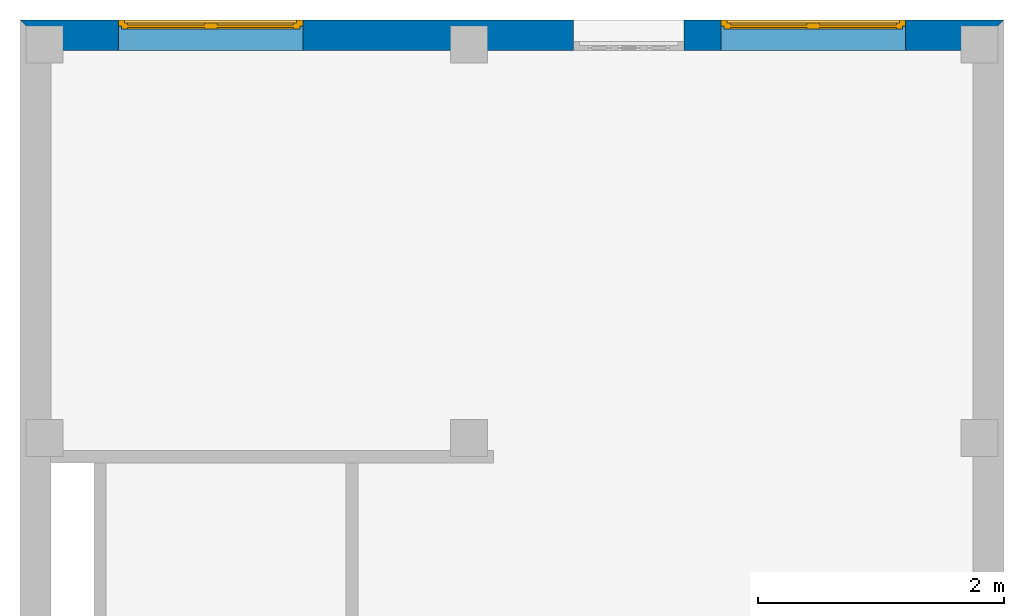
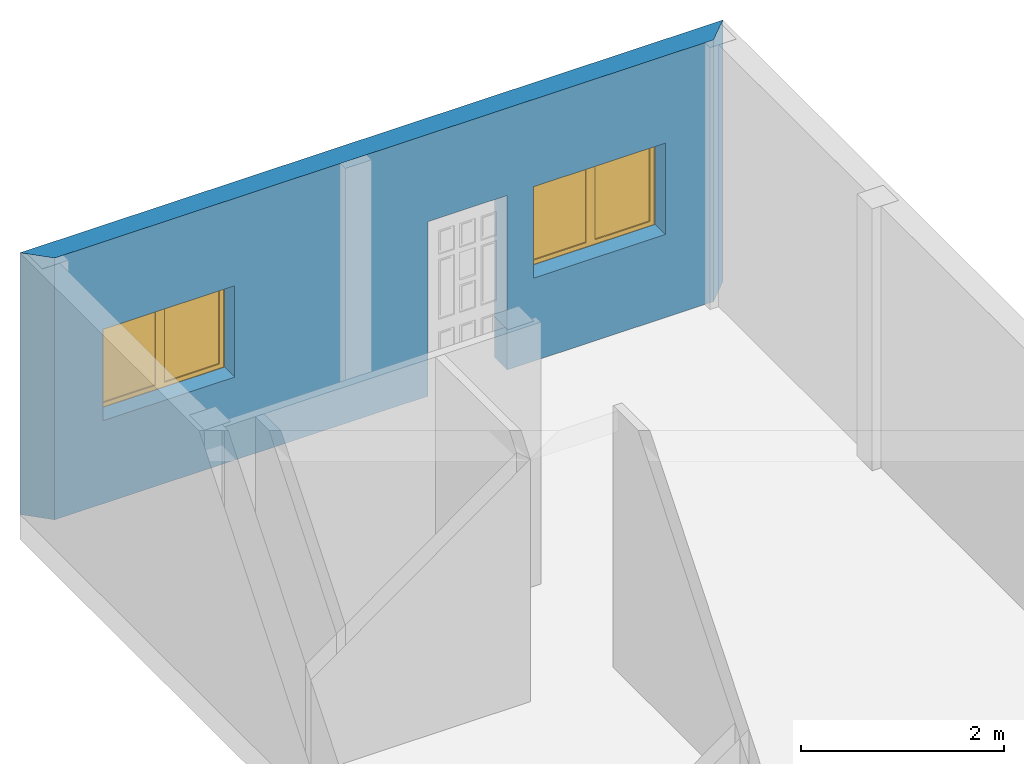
# One storey, part 2 of 5: 2 windows, 1 wall, 3 openings.
"""IFC2X3 building model written with IfcOpenShell, lengths in millimetres."""

from ifc_helpers import new_model, entity, si_unit, converted_unit, direction, frame, frame_2d, origin_with_axes, place, context, project, spatial, polyline, rectangle, outline, extrude, faceted_brep, source, transform, mapped, material, layer, layer_set, layer_usage, type_object, element, fill, save


model = new_model("IFC2X3")

# Units and contexts
context_of_model = context(None, 3, precision=1e-05, world=origin_with_axes(), true_north=direction((6.123234e-17, 1.0)))
plan_context = context("Plan", 3, precision=1e-05, world=origin_with_axes(), true_north=direction((6.123234e-17, 1.0)))
model_context = context("Model", 3, precision=1e-05, world=origin_with_axes(), true_north=direction((6.123234e-17, 1.0)))
ifc_project = project(units=[si_unit("LENGTHUNIT", "METRE", prefix="MILLI"), si_unit("AREAUNIT", "SQUARE_METRE"), si_unit("VOLUMEUNIT", "CUBIC_METRE"), converted_unit("PLANEANGLEUNIT", "DEGREE", entity("IfcPlaneAngleMeasure", 0.017453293), si_unit("PLANEANGLEUNIT", "RADIAN"), dimensions=[0, 0, 0, 0, 0, 0, 0]), si_unit("SOLIDANGLEUNIT", "STERADIAN"), si_unit("MASSUNIT", "GRAM"), si_unit("TIMEUNIT", "SECOND"), si_unit("THERMODYNAMICTEMPERATUREUNIT", "DEGREE_CELSIUS"), si_unit("LUMINOUSINTENSITYUNIT", "LUMEN")], contexts=[context_of_model, plan_context, model_context])

# Site, building, storey
site_placement = place(None, origin_with_axes())
site = spatial("IfcSite", under=ifc_project, at=site_placement, Name="Por defecto Sitio", CompositionType="ELEMENT")
building_placement = place(site_placement, origin_with_axes())
building = spatial("IfcBuilding", under=site, at=building_placement, Name="Por defecto Edificio", CompositionType="ELEMENT")
storey_placement = place(building_placement, origin_with_axes())
storey = spatial("IfcBuildingStorey", under=building, at=storey_placement, Name="Planta Baja", CompositionType="ELEMENT", Elevation=0.0)

# Wall, openings, windows
ifc_material = material(Name="Bloque mampostería")
ifc_layer = layer(ifc_material, 250.0, ventilated="UNKNOWN")
ifc_layer_set = layer_set([ifc_layer], Name="Bloque mampostería 250")
ifc_layer_usage = layer_usage(ifc_layer_set, "AXIS2", "NEGATIVE", 0.0)
wall_type = type_object("IfcWallType", Name="Bloque mampostería 250", PredefinedType="NOTDEFINED", material=ifc_layer_set)
wall_placement = place(storey_placement, frame((-200.0, 12750.0, 0.0), z_axis=(0.0, 0.0, 1.0), x_axis=(1.0, 0.0, 0.0)))
wall = element("IfcWallStandardCase", 1, at=wall_placement, inside=storey, type_object=wall_type, material=ifc_layer_usage, Name="Muro-005", context=model_context, shape_type="SweptSolid", body=[
    extrude(outline(polyline([(250.0, -250.0), (7750.0, -250.0), (8000.0, 0.0), (0.0, 0.0), (250.0, -250.0)])), origin_with_axes(), (0.0, 0.0, 1.0), 3150.0),
])
opening_1_placement = place(wall_placement, frame((4950.0, -250.0, 0.0), z_axis=(0.0, 0.0, 1.0), x_axis=(1.0, 0.0, 0.0)))
element("IfcOpeningElement", 2, at=opening_1_placement, cuts=wall, ObjectType="Opening", context=model_context, shape_type="SweptSolid", body=[
    extrude(rectangle(XDim=900.0, YDim=2100.0, at=frame_2d((0.0, 1050.0), x_axis=(-1.0, 0.0))), frame((0.0, 0.0, 0.0), z_axis=(0.0, 1.0, 0.0), x_axis=(-1.0, 0.0, 0.0)), (0.0, 0.0, 1.0), 250.0),
])
opening_2_placement = place(wall_placement, frame((6450.0, -250.0, 1000.0), z_axis=(0.0, 0.0, 1.0), x_axis=(1.0, 0.0, 0.0)))
opening_2 = element("IfcOpeningElement", 3, at=opening_2_placement, cuts=wall, ObjectType="Opening", context=model_context, shape_type="SweptSolid", body=[
    extrude(rectangle(XDim=1500.0, YDim=1100.0, at=frame_2d((0.0, 550.0), x_axis=(-1.0, 0.0))), frame((0.0, 0.0, 0.0), z_axis=(0.0, 1.0, 0.0), x_axis=(-1.0, 0.0, 0.0)), (0.0, 0.0, 1.0), 250.0),
])
opening_3_placement = place(wall_placement, frame((1549.7728, -250.0, 1000.0), z_axis=(0.0, 0.0, 1.0), x_axis=(1.0, 0.0, 0.0)))
opening_3 = element("IfcOpeningElement", 4, at=opening_3_placement, cuts=wall, ObjectType="Opening", context=model_context, shape_type="SweptSolid", body=[
    extrude(rectangle(XDim=1500.0, YDim=1100.0, at=frame_2d((-1.110223e-13, 550.0), x_axis=(1.0, 0.0))), frame((0.0, 0.0, 0.0), z_axis=(0.0, 1.0, 0.0), x_axis=(-1.0, 0.0, 0.0)), (0.0, 0.0, 1.0), 250.0),
])
window_style = type_object("IfcWindowStyle", Name="V2 Practicable 13", ConstructionType="NOTDEFINED", OperationType="SINGLE_PANEL", ParameterTakesPrecedence=False, Sizeable=False)
shared_shape_1 = source(origin_with_axes(), model_context, "Body", "Brep", [
    faceted_brep([(25.0, 50.0, 1050.0), (0.0, 50.0, 1050.0), (0.0, 0.0, 1050.0), (50.0, 0.0, 1050.0), (50.0, 25.0, 1050.0), (25.0, 25.0, 1050.0), (25.0, 50.0, 50.0), (0.0, 50.0, 50.0), (0.0, 0.0, 50.0), (50.0, 0.0, 50.0), (50.0, 25.0, 50.0), (25.0, 25.0, 50.0)], [[[0, 1, 2, 3, 4, 5]], [[6, 7, 1, 0]], [[1, 7, 8, 2]], [[2, 8, 9, 3]], [[4, 3, 9, 10]], [[10, 11, 5, 4]], [[5, 11, 6, 0]], [[11, 10, 9, 8, 7, 6]]]),
    faceted_brep([(1450.0, 25.0, 1050.0), (1450.0, 0.0, 1050.0), (1500.0, 0.0, 1050.0), (1500.0, 50.0, 1050.0), (1475.0, 50.0, 1050.0), (1475.0, 25.0, 1050.0), (1450.0, 25.0, 50.0), (1450.0, 0.0, 50.0), (1500.0, 0.0, 50.0), (1500.0, 50.0, 50.0), (1475.0, 50.0, 50.0), (1475.0, 25.0, 50.0)], [[[0, 1, 2, 3, 4, 5]], [[6, 7, 1, 0]], [[8, 2, 1, 7]], [[9, 3, 2, 8]], [[4, 3, 9, 10]], [[10, 11, 5, 4]], [[5, 11, 6, 0]], [[11, 10, 9, 8, 7, 6]]]),
    faceted_brep([(1450.0, 25.0, 50.0), (1450.0, 0.0, 50.0), (1500.0, 0.0, 50.0), (1500.0, 50.0, 50.0), (1475.0, 50.0, 50.0), (1475.0, 25.0, 50.0), (50.0, 25.0, 50.0), (50.0, 0.0, 50.0), (0.0, 0.0, 50.0), (0.0, 0.0, 0.0), (1500.0, 0.0, 0.0), (1500.0, 50.0, 0.0), (25.0, 50.0, 25.0), (750.0, 50.0, 25.0), (1475.0, 50.0, 25.0), (0.0, 50.0, 0.0), (0.0, 50.0, 50.0), (25.0, 50.0, 50.0), (1475.0, 25.0, 25.0), (750.0, 25.0, 25.0), (25.0, 25.0, 25.0), (25.0, 25.0, 50.0)], [[[0, 1, 2, 3, 4, 5]], [[6, 7, 1, 0]], [[8, 9, 10, 2, 1, 7]], [[11, 3, 2, 10]], [[12, 13, 14, 4, 3, 11, 15, 16, 17]], [[14, 18, 5, 4]], [[5, 18, 19, 20, 21, 6, 0]], [[21, 17, 16, 8, 7, 6]], [[16, 15, 9, 8]], [[15, 11, 10, 9]], [[12, 20, 19, 13]], [[13, 19, 18, 14]], [[21, 20, 12, 17]]]),
    faceted_brep([(25.0, 50.0, 1075.0), (25.0, 50.0, 1050.0), (0.0, 50.0, 1050.0), (0.0, 50.0, 1100.0), (1500.0, 50.0, 1100.0), (1500.0, 50.0, 1050.0), (1475.0, 50.0, 1050.0), (1475.0, 50.0, 1075.0), (750.0, 50.0, 1075.0), (25.0, 25.0, 1075.0), (25.0, 25.0, 1050.0), (50.0, 25.0, 1050.0), (50.0, 0.0, 1050.0), (0.0, 0.0, 1050.0), (0.0, 0.0, 1100.0), (1500.0, 0.0, 1100.0), (1500.0, 0.0, 1050.0), (1475.0, 25.0, 1050.0), (1450.0, 0.0, 1050.0), (1450.0, 25.0, 1050.0), (1475.0, 25.0, 1075.0), (750.0, 25.0, 1075.0)], [[[0, 1, 2, 3, 4, 5, 6, 7, 8]], [[0, 9, 10, 1]], [[10, 11, 12, 13, 2, 1]], [[3, 2, 13, 14]], [[4, 3, 14, 15]], [[5, 4, 15, 16]], [[17, 6, 5, 16, 18, 19]], [[6, 17, 20, 7]], [[7, 20, 21, 8]], [[8, 21, 9, 0]], [[19, 11, 10, 9, 21, 20, 17]], [[19, 18, 12, 11]], [[16, 15, 14, 13, 12, 18]]]),
    faceted_brep([(1425.0, 25.0, 75.0), (1425.0, 25.0, 1025.0), (1425.0, 75.0, 1025.0), (1425.0, 75.0, 75.0), (1475.0, 25.0, 75.0), (1475.0, 25.0, 1025.0), (1475.0, 75.0, 1025.0), (1475.0, 75.0, 75.0)], [[[0, 1, 2, 3]], [[0, 4, 5, 1]], [[1, 5, 6, 2]], [[3, 2, 6, 7]], [[4, 0, 3, 7]], [[5, 4, 7, 6]]]),
    faceted_brep([(750.0, 25.0, 75.0), (750.0, 25.0, 1025.0), (750.0, 75.0, 1025.0), (750.0, 75.0, 75.0), (800.0, 25.0, 75.0), (800.0, 25.0, 1025.0), (800.0, 75.0, 1025.0), (800.0, 75.0, 75.0)], [[[0, 1, 2, 3]], [[0, 4, 5, 1]], [[1, 5, 6, 2]], [[3, 2, 6, 7]], [[4, 0, 3, 7]], [[5, 4, 7, 6]]]),
    faceted_brep([(750.0, 25.0, 25.0), (750.0, 25.0, 75.0), (750.0, 75.0, 75.0), (750.0, 75.0, 25.0), (1475.0, 25.0, 25.0), (1475.0, 25.0, 75.0), (1425.0, 25.0, 75.0), (800.0, 25.0, 75.0), (800.0, 75.0, 75.0), (1425.0, 75.0, 75.0), (1475.0, 75.0, 75.0), (1475.0, 75.0, 25.0)], [[[0, 1, 2, 3]], [[0, 4, 5, 6, 7, 1]], [[1, 7, 8, 2]], [[3, 2, 8, 9, 10, 11]], [[4, 0, 3, 11]], [[5, 4, 11, 10]], [[6, 5, 10, 9]], [[7, 6, 9, 8]]]),
    faceted_brep([(1475.0, 25.0, 1075.0), (1475.0, 25.0, 1025.0), (1475.0, 75.0, 1025.0), (1475.0, 75.0, 1075.0), (750.0, 25.0, 1075.0), (750.0, 25.0, 1025.0), (800.0, 25.0, 1025.0), (1425.0, 25.0, 1025.0), (1425.0, 75.0, 1025.0), (800.0, 75.0, 1025.0), (750.0, 75.0, 1025.0), (750.0, 75.0, 1075.0)], [[[0, 1, 2, 3]], [[0, 4, 5, 6, 7, 1]], [[1, 7, 8, 2]], [[3, 2, 8, 9, 10, 11]], [[4, 0, 3, 11]], [[5, 4, 11, 10]], [[6, 5, 10, 9]], [[7, 6, 9, 8]]]),
    faceted_brep([(1425.0, 40.0, 75.0), (800.0, 40.0, 75.0), (800.0, 60.0, 75.0), (1425.0, 60.0, 75.0), (1425.0, 40.0, 1025.0), (800.0, 40.0, 1025.0), (800.0, 60.0, 1025.0), (1425.0, 60.0, 1025.0)], [[[0, 1, 2, 3]], [[0, 4, 5, 1]], [[1, 5, 6, 2]], [[3, 2, 6, 7]], [[4, 0, 3, 7]], [[5, 4, 7, 6]]]),
    faceted_brep([(700.0, 25.0, 75.0), (700.0, 25.0, 1025.0), (700.0, 75.0, 1025.0), (700.0, 75.0, 75.0), (750.0, 25.0, 75.0), (750.0, 25.0, 1025.0), (750.0, 75.0, 1025.0), (750.0, 75.0, 75.0)], [[[0, 1, 2, 3]], [[0, 4, 5, 1]], [[1, 5, 6, 2]], [[3, 2, 6, 7]], [[4, 0, 3, 7]], [[5, 4, 7, 6]]]),
    faceted_brep([(25.0, 25.0, 75.0), (25.0, 25.0, 1025.0), (25.0, 75.0, 1025.0), (25.0, 75.0, 75.0), (75.0, 25.0, 75.0), (75.0, 25.0, 1025.0), (75.0, 75.0, 1025.0), (75.0, 75.0, 75.0)], [[[0, 1, 2, 3]], [[0, 4, 5, 1]], [[1, 5, 6, 2]], [[3, 2, 6, 7]], [[4, 0, 3, 7]], [[5, 4, 7, 6]]]),
    faceted_brep([(25.0, 25.0, 25.0), (25.0, 25.0, 75.0), (25.0, 75.0, 75.0), (25.0, 75.0, 25.0), (750.0, 25.0, 25.0), (750.0, 25.0, 75.0), (700.0, 25.0, 75.0), (75.0, 25.0, 75.0), (75.0, 75.0, 75.0), (700.0, 75.0, 75.0), (750.0, 75.0, 75.0), (750.0, 75.0, 25.0)], [[[0, 1, 2, 3]], [[0, 4, 5, 6, 7, 1]], [[1, 7, 8, 2]], [[3, 2, 8, 9, 10, 11]], [[4, 0, 3, 11]], [[5, 4, 11, 10]], [[6, 5, 10, 9]], [[7, 6, 9, 8]]]),
    faceted_brep([(750.0, 25.0, 1075.0), (750.0, 25.0, 1025.0), (750.0, 75.0, 1025.0), (750.0, 75.0, 1075.0), (25.0, 25.0, 1075.0), (25.0, 25.0, 1025.0), (75.0, 25.0, 1025.0), (700.0, 25.0, 1025.0), (700.0, 75.0, 1025.0), (75.0, 75.0, 1025.0), (25.0, 75.0, 1025.0), (25.0, 75.0, 1075.0)], [[[0, 1, 2, 3]], [[0, 4, 5, 6, 7, 1]], [[1, 7, 8, 2]], [[3, 2, 8, 9, 10, 11]], [[4, 0, 3, 11]], [[5, 4, 11, 10]], [[6, 5, 10, 9]], [[7, 6, 9, 8]]]),
    faceted_brep([(700.0, 40.0, 75.0), (75.0, 40.0, 75.0), (75.0, 60.0, 75.0), (700.0, 60.0, 75.0), (700.0, 40.0, 1025.0), (75.0, 40.0, 1025.0), (75.0, 60.0, 1025.0), (700.0, 60.0, 1025.0)], [[[0, 1, 2, 3]], [[0, 4, 5, 1]], [[1, 5, 6, 2]], [[3, 2, 6, 7]], [[4, 0, 3, 7]], [[5, 4, 7, 6]]]),
])
window_1_placement = place(opening_2_placement, frame((750.0, 250.0, 0.0), z_axis=(0.0, 0.0, 1.0), x_axis=(-1.0, 0.0, 0.0)))
window_1 = element("IfcWindow", 5, at=window_1_placement, inside=storey, type_object=window_style, Name="V01", OverallHeight=1100.0, OverallWidth=1500.0, context=model_context, shape_type="MappedRepresentation", body=[
    mapped(shared_shape_1, transform((0.0, 0.0, 0.0), scale=1.0)),
])
fill(opening_2, window_1)
shared_shape_2 = source(origin_with_axes(), model_context, "Body", "Brep", [
    faceted_brep([(1475.0, 50.0, 1050.0), (1475.0, 25.0, 1050.0), (1450.0, 25.0, 1050.0), (1450.0, 0.0, 1050.0), (1500.0, 0.0, 1050.0), (1500.0, 50.0, 1050.0), (1475.0, 50.0, 50.0), (1475.0, 25.0, 50.0), (1450.0, 25.0, 50.0), (1450.0, 0.0, 50.0), (1500.0, 0.0, 50.0), (1500.0, 50.0, 50.0)], [[[0, 1, 2, 3, 4, 5]], [[1, 0, 6, 7]], [[8, 2, 1, 7]], [[2, 8, 9, 3]], [[4, 3, 9, 10]], [[5, 4, 10, 11]], [[6, 0, 5, 11]], [[7, 6, 11, 10, 9, 8]]]),
    faceted_brep([(50.0, 25.0, 1050.0), (25.0, 25.0, 1050.0), (25.0, 50.0, 1050.0), (-4.4408921e-13, 50.0, 1050.0), (-4.4408921e-13, 0.0, 1050.0), (50.0, 0.0, 1050.0), (50.0, 25.0, 50.0), (25.0, 25.0, 50.0), (25.0, 50.0, 50.0), (-4.4408921e-13, 50.0, 50.0), (-4.4408921e-13, 0.0, 50.0), (50.0, 0.0, 50.0)], [[[0, 1, 2, 3, 4, 5]], [[1, 0, 6, 7]], [[8, 2, 1, 7]], [[2, 8, 9, 3]], [[9, 10, 4, 3]], [[10, 11, 5, 4]], [[6, 0, 5, 11]], [[7, 6, 11, 10, 9, 8]]]),
    faceted_brep([(50.0, 25.0, 50.0), (25.0, 25.0, 50.0), (25.0, 50.0, 50.0), (-4.4408921e-13, 50.0, 50.0), (-4.4408921e-13, 0.0, 50.0), (50.0, 0.0, 50.0), (1450.0, 25.0, 50.0), (1475.0, 25.0, 50.0), (1475.0, 25.0, 25.0), (750.0, 25.0, 25.0), (25.0, 25.0, 25.0), (25.0, 50.0, 25.0), (1475.0, 50.0, 25.0), (1475.0, 50.0, 50.0), (1500.0, 50.0, 50.0), (1500.0, 50.0, 0.0), (-4.4408921e-13, 50.0, 0.0), (750.0, 50.0, 25.0), (0.0, 0.0, 0.0), (1500.0, 0.0, 50.0), (1450.0, 0.0, 50.0), (1500.0, 0.0, 0.0)], [[[0, 1, 2, 3, 4, 5]], [[1, 0, 6, 7, 8, 9, 10]], [[11, 2, 1, 10]], [[12, 13, 14, 15, 16, 3, 2, 11, 17]], [[16, 18, 4, 3]], [[19, 20, 5, 4, 18, 21]], [[6, 0, 5, 20]], [[7, 6, 20, 19, 14, 13]], [[7, 13, 12, 8]], [[12, 17, 9, 8]], [[17, 11, 10, 9]], [[14, 19, 21, 15]], [[15, 21, 18, 16]]]),
    faceted_brep([(1475.0, 50.0, 1075.0), (750.0, 50.0, 1075.0), (25.0, 50.0, 1075.0), (25.0, 50.0, 1050.0), (-4.4408921e-13, 50.0, 1050.0), (-4.4408921e-13, 50.0, 1100.0), (1500.0, 50.0, 1100.0), (1500.0, 50.0, 1050.0), (1475.0, 50.0, 1050.0), (1475.0, 25.0, 1075.0), (750.0, 25.0, 1075.0), (25.0, 25.0, 1075.0), (25.0, 25.0, 1050.0), (50.0, 25.0, 1050.0), (50.0, 0.0, 1050.0), (-4.4408921e-13, 0.0, 1050.0), (-4.4408921e-13, 0.0, 1100.0), (1500.0, 0.0, 1100.0), (1500.0, 0.0, 1050.0), (1475.0, 25.0, 1050.0), (1450.0, 0.0, 1050.0), (1450.0, 25.0, 1050.0)], [[[0, 1, 2, 3, 4, 5, 6, 7, 8]], [[1, 0, 9, 10]], [[2, 1, 10, 11]], [[3, 2, 11, 12]], [[12, 13, 14, 15, 4, 3]], [[4, 15, 16, 5]], [[5, 16, 17, 6]], [[6, 17, 18, 7]], [[19, 8, 7, 18, 20, 21]], [[0, 8, 19, 9]], [[13, 12, 11, 10, 9, 19, 21]], [[13, 21, 20, 14]], [[15, 14, 20, 18, 17, 16]]]),
    faceted_brep([(75.0, 25.0, 75.0), (75.0, 75.0, 75.0), (75.0, 75.0, 1025.0), (75.0, 25.0, 1025.0), (25.0, 25.0, 75.0), (25.0, 75.0, 75.0), (25.0, 75.0, 1025.0), (25.0, 25.0, 1025.0)], [[[0, 1, 2, 3]], [[4, 5, 1, 0]], [[1, 5, 6, 2]], [[3, 2, 6, 7]], [[0, 3, 7, 4]], [[7, 6, 5, 4]]]),
    faceted_brep([(750.0, 25.0, 75.0), (750.0, 75.0, 75.0), (750.0, 75.0, 1025.0), (750.0, 25.0, 1025.0), (700.0, 25.0, 75.0), (700.0, 75.0, 75.0), (700.0, 75.0, 1025.0), (700.0, 25.0, 1025.0)], [[[0, 1, 2, 3]], [[4, 5, 1, 0]], [[1, 5, 6, 2]], [[3, 2, 6, 7]], [[0, 3, 7, 4]], [[7, 6, 5, 4]]]),
    faceted_brep([(750.0, 25.0, 25.0), (750.0, 75.0, 25.0), (750.0, 75.0, 75.0), (750.0, 25.0, 75.0), (25.0, 25.0, 25.0), (25.0, 75.0, 25.0), (25.0, 75.0, 75.0), (75.0, 75.0, 75.0), (700.0, 75.0, 75.0), (700.0, 25.0, 75.0), (75.0, 25.0, 75.0), (25.0, 25.0, 75.0)], [[[0, 1, 2, 3]], [[4, 5, 1, 0]], [[1, 5, 6, 7, 8, 2]], [[3, 2, 8, 9]], [[0, 3, 9, 10, 11, 4]], [[11, 6, 5, 4]], [[10, 7, 6, 11]], [[9, 8, 7, 10]]]),
    faceted_brep([(25.0, 25.0, 1075.0), (25.0, 75.0, 1075.0), (25.0, 75.0, 1025.0), (25.0, 25.0, 1025.0), (750.0, 25.0, 1075.0), (750.0, 75.0, 1075.0), (750.0, 75.0, 1025.0), (700.0, 75.0, 1025.0), (75.0, 75.0, 1025.0), (75.0, 25.0, 1025.0), (700.0, 25.0, 1025.0), (750.0, 25.0, 1025.0)], [[[0, 1, 2, 3]], [[4, 5, 1, 0]], [[1, 5, 6, 7, 8, 2]], [[3, 2, 8, 9]], [[0, 3, 9, 10, 11, 4]], [[11, 6, 5, 4]], [[10, 7, 6, 11]], [[9, 8, 7, 10]]]),
    faceted_brep([(75.0, 40.0, 75.0), (75.0, 60.0, 75.0), (700.0, 60.0, 75.0), (700.0, 40.0, 75.0), (75.0, 40.0, 1025.0), (75.0, 60.0, 1025.0), (700.0, 60.0, 1025.0), (700.0, 40.0, 1025.0)], [[[0, 1, 2, 3]], [[4, 5, 1, 0]], [[1, 5, 6, 2]], [[3, 2, 6, 7]], [[0, 3, 7, 4]], [[7, 6, 5, 4]]]),
    faceted_brep([(800.0, 25.0, 75.0), (800.0, 75.0, 75.0), (800.0, 75.0, 1025.0), (800.0, 25.0, 1025.0), (750.0, 25.0, 75.0), (750.0, 75.0, 75.0), (750.0, 75.0, 1025.0), (750.0, 25.0, 1025.0)], [[[0, 1, 2, 3]], [[4, 5, 1, 0]], [[1, 5, 6, 2]], [[3, 2, 6, 7]], [[0, 3, 7, 4]], [[7, 6, 5, 4]]]),
    faceted_brep([(1475.0, 25.0, 75.0), (1475.0, 75.0, 75.0), (1475.0, 75.0, 1025.0), (1475.0, 25.0, 1025.0), (1425.0, 25.0, 75.0), (1425.0, 75.0, 75.0), (1425.0, 75.0, 1025.0), (1425.0, 25.0, 1025.0)], [[[0, 1, 2, 3]], [[4, 5, 1, 0]], [[1, 5, 6, 2]], [[3, 2, 6, 7]], [[0, 3, 7, 4]], [[7, 6, 5, 4]]]),
    faceted_brep([(1475.0, 25.0, 25.0), (1475.0, 75.0, 25.0), (1475.0, 75.0, 75.0), (1475.0, 25.0, 75.0), (750.0, 25.0, 25.0), (750.0, 75.0, 25.0), (750.0, 75.0, 75.0), (800.0, 75.0, 75.0), (1425.0, 75.0, 75.0), (1425.0, 25.0, 75.0), (800.0, 25.0, 75.0), (750.0, 25.0, 75.0)], [[[0, 1, 2, 3]], [[4, 5, 1, 0]], [[1, 5, 6, 7, 8, 2]], [[3, 2, 8, 9]], [[0, 3, 9, 10, 11, 4]], [[11, 6, 5, 4]], [[10, 7, 6, 11]], [[9, 8, 7, 10]]]),
    faceted_brep([(750.0, 25.0, 1075.0), (750.0, 75.0, 1075.0), (750.0, 75.0, 1025.0), (750.0, 25.0, 1025.0), (1475.0, 25.0, 1075.0), (1475.0, 75.0, 1075.0), (1475.0, 75.0, 1025.0), (1425.0, 75.0, 1025.0), (800.0, 75.0, 1025.0), (800.0, 25.0, 1025.0), (1425.0, 25.0, 1025.0), (1475.0, 25.0, 1025.0)], [[[0, 1, 2, 3]], [[4, 5, 1, 0]], [[1, 5, 6, 7, 8, 2]], [[3, 2, 8, 9]], [[0, 3, 9, 10, 11, 4]], [[11, 6, 5, 4]], [[10, 7, 6, 11]], [[9, 8, 7, 10]]]),
    faceted_brep([(800.0, 40.0, 75.0), (800.0, 60.0, 75.0), (1425.0, 60.0, 75.0), (1425.0, 40.0, 75.0), (800.0, 40.0, 1025.0), (800.0, 60.0, 1025.0), (1425.0, 60.0, 1025.0), (1425.0, 40.0, 1025.0)], [[[0, 1, 2, 3]], [[4, 5, 1, 0]], [[1, 5, 6, 2]], [[3, 2, 6, 7]], [[0, 3, 7, 4]], [[7, 6, 5, 4]]]),
])
window_2_placement = place(opening_3_placement, frame((750.0, 250.0, 0.0), z_axis=(0.0, 0.0, 1.0), x_axis=(-1.0, 0.0, 0.0)))
window_2 = element("IfcWindow", 6, at=window_2_placement, inside=storey, type_object=window_style, Name="V02", OverallHeight=1100.0, OverallWidth=1500.0, context=model_context, shape_type="MappedRepresentation", body=[
    mapped(shared_shape_2, transform((0.0, 0.0, 0.0), scale=1.0)),
])
fill(opening_3, window_2)

save(model, "model.ifc")
